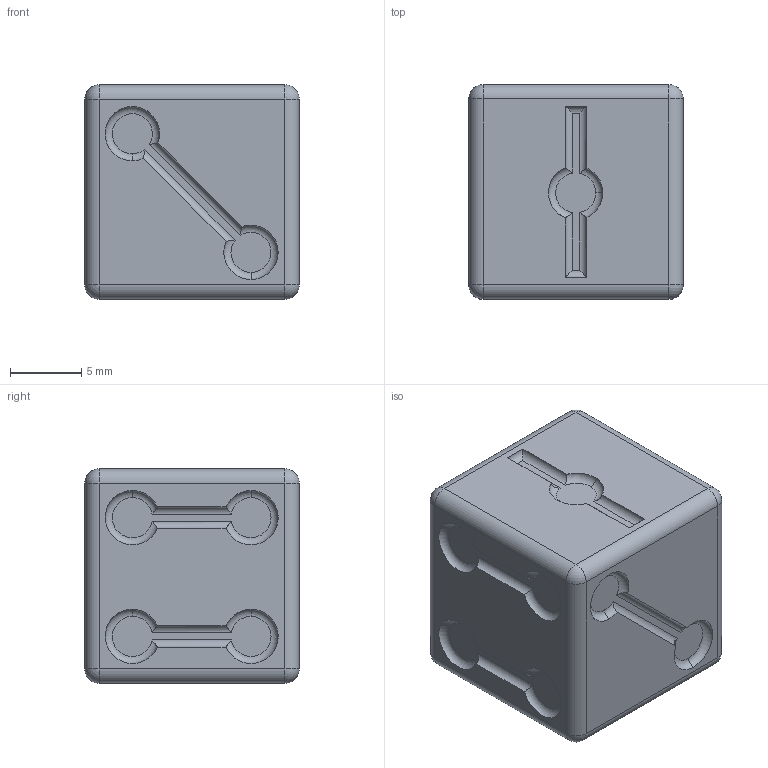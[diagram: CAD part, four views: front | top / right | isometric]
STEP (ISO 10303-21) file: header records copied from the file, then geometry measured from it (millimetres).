
FILE_DESCRIPTION(('HOOPS Exchange Step'),'2;1');
FILE_NAME('C:\Users\graig\Desktop\Death Breaker 3D Files\STP\D3_6.stp','2026-09-15T14:27:31+01:00',('graig'),('Unknown organisation'),'HOOPS Exchange 2025.8','HOOPS Exchange','Unknown authorisation');
FILE_SCHEMA( ('AP203_CONFIGURATION_CONTROLLED_3D_DESIGN_OF_MECHANICAL_PARTS_AND_ASSEMBLIES_MIM_LF') );
Length unit declared in the file: millimetre
Products named in the file (1): root
Bounding box: 15 x 15 x 15 mm (x, y, z)
Volume: 3187.1 mm3; surface area: 1374.5 mm2
Topology: 1 solids, 1 shells, 118 faces, 286 edges, 175 vertices
Faces by surface type: cylinder 49, torus 36, plane 25, sphere 8
Entity records: 3969 total; most frequent: CARTESIAN_POINT 1211, DIRECTION 599, ORIENTED_EDGE 556, EDGE_CURVE 278, AXIS2_PLACEMENT_3D 246, VERTEX_POINT 175, EDGE_LOOP 131, FACE_BOUND 131
